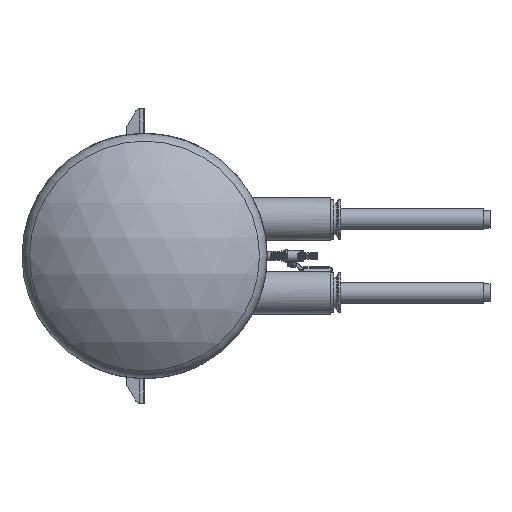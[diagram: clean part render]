
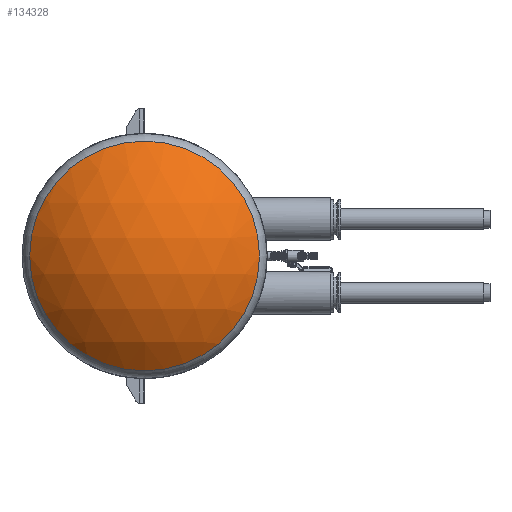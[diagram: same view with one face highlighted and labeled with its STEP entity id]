
A CAD part, left-side view. The second image highlights one B-rep face of the part: STEP entity #134328.
In plain terms, the highlighted spherical face has radius 346.109 mm.
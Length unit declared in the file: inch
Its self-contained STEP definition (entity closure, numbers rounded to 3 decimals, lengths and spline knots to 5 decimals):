
#4569 = CARTESIAN_POINT ( 'NONE',  ( -51.01125, 0., -9.37618 ) ) ;
#5839 = DIRECTION ( 'NONE',  ( 1., 0., 0. ) ) ;
#10386 = DIRECTION ( 'NONE',  ( 0., 0., 1. ) ) ;
#18423 = DIRECTION ( 'NONE',  ( 0., 0., -1. ) ) ;
#31880 = CARTESIAN_POINT ( 'NONE',  ( -51.01125, 0., 0. ) ) ;
#40982 = ORIENTED_EDGE ( 'NONE', *, *, #72755, .F. ) ;
#52135 = AXIS2_PLACEMENT_3D ( 'NONE', #95601, #10386, #93843 ) ;
#53975 = CIRCLE ( 'NONE', #148615, 9.37618 ) ;
#71006 = VERTEX_POINT ( 'NONE', #4569 ) ;
#72755 = EDGE_CURVE ( 'NONE', #71006, #71006, #53975, .T. ) ;
#89434 = FACE_OUTER_BOUND ( 'NONE', #134179, .T. ) ;
#93843 = DIRECTION ( 'NONE',  ( 0., 1., 0. ) ) ;
#95601 = CARTESIAN_POINT ( 'NONE',  ( -41.12365, 0., 0. ) ) ;
#130735 = SPHERICAL_SURFACE ( 'NONE', #52135, 13.62635 ) ;
#134179 = EDGE_LOOP ( 'NONE', ( #40982 ) ) ;
#134328 = ADVANCED_FACE ( 'NONE', ( #89434 ), #130735, .T. ) ;
#148615 = AXIS2_PLACEMENT_3D ( 'NONE', #31880, #5839, #18423 ) ;
